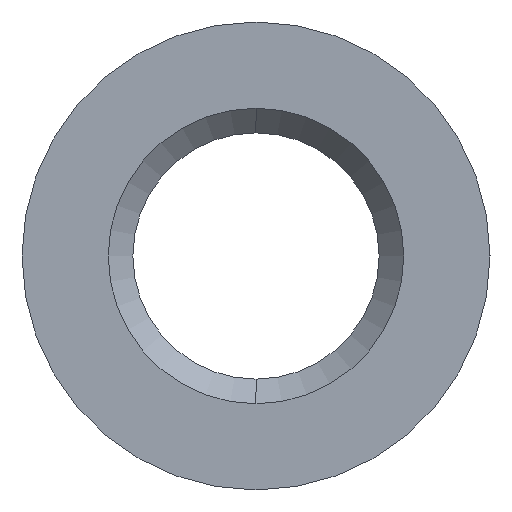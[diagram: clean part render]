
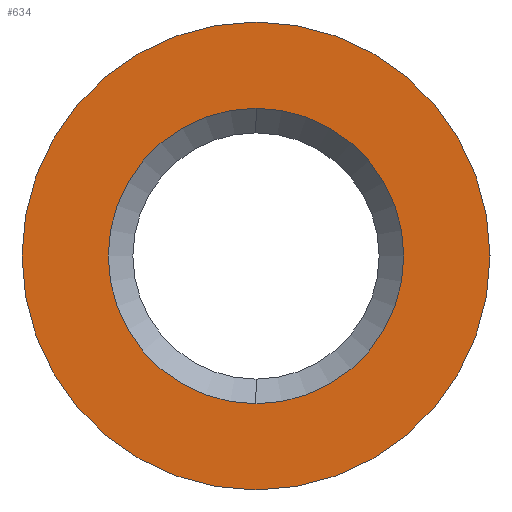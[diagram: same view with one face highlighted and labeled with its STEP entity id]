
A CAD part, left-side view. The second image highlights one B-rep face of the part: STEP entity #634.
In plain terms, the highlighted planar face has unit normal (-1, 0, 0).
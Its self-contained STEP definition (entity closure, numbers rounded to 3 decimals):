
#2 = CIRCLE ( 'NONE', #511, 3. ) ;
#4 = CARTESIAN_POINT ( 'NONE',  ( -14.05, 0., 0. ) ) ;
#9 = EDGE_CURVE ( 'NONE', #231, #628, #630, .T. ) ;
#11 = ORIENTED_EDGE ( 'NONE', *, *, #70, .F. ) ;
#36 = AXIS2_PLACEMENT_3D ( 'NONE', #239, #373, #720 ) ;
#50 = CARTESIAN_POINT ( 'NONE',  ( -14.05, 0., 3. ) ) ;
#61 = ORIENTED_EDGE ( 'NONE', *, *, #679, .F. ) ;
#70 = EDGE_CURVE ( 'NONE', #507, #492, #423, .T. ) ;
#114 = FACE_OUTER_BOUND ( 'NONE', #147, .T. ) ;
#143 = EDGE_LOOP ( 'NONE', ( #225, #293 ) ) ;
#147 = EDGE_LOOP ( 'NONE', ( #61, #11 ) ) ;
#172 = CARTESIAN_POINT ( 'NONE',  ( -14.05, 4.75, 0. ) ) ;
#180 = CARTESIAN_POINT ( 'NONE',  ( -14.05, 0., 0. ) ) ;
#225 = ORIENTED_EDGE ( 'NONE', *, *, #688, .T. ) ;
#231 = VERTEX_POINT ( 'NONE', #608 ) ;
#237 = AXIS2_PLACEMENT_3D ( 'NONE', #4, #713, #626 ) ;
#239 = CARTESIAN_POINT ( 'NONE',  ( -14.05, 0., 0. ) ) ;
#276 = CIRCLE ( 'NONE', #393, 4.75 ) ;
#293 = ORIENTED_EDGE ( 'NONE', *, *, #9, .T. ) ;
#350 = AXIS2_PLACEMENT_3D ( 'NONE', #172, #723, #672 ) ;
#373 = DIRECTION ( 'NONE',  ( 1., 0., 0. ) ) ;
#389 = DIRECTION ( 'NONE',  ( 0., 0., 1. ) ) ;
#393 = AXIS2_PLACEMENT_3D ( 'NONE', #516, #727, #510 ) ;
#423 = CIRCLE ( 'NONE', #36, 4.75 ) ;
#492 = VERTEX_POINT ( 'NONE', #850 ) ;
#507 = VERTEX_POINT ( 'NONE', #718 ) ;
#510 = DIRECTION ( 'NONE',  ( 0., 0., -1. ) ) ;
#511 = AXIS2_PLACEMENT_3D ( 'NONE', #180, #796, #389 ) ;
#516 = CARTESIAN_POINT ( 'NONE',  ( -14.05, 0., 0. ) ) ;
#608 = CARTESIAN_POINT ( 'NONE',  ( -14.05, 0., -3. ) ) ;
#626 = DIRECTION ( 'NONE',  ( 0., 0., 1. ) ) ;
#628 = VERTEX_POINT ( 'NONE', #50 ) ;
#630 = CIRCLE ( 'NONE', #237, 3. ) ;
#634 = ADVANCED_FACE ( 'NONE', ( #735, #114 ), #799, .T. ) ;
#672 = DIRECTION ( 'NONE',  ( 0., 0., 1. ) ) ;
#679 = EDGE_CURVE ( 'NONE', #492, #507, #276, .T. ) ;
#688 = EDGE_CURVE ( 'NONE', #628, #231, #2, .T. ) ;
#713 = DIRECTION ( 'NONE',  ( 1., 0., 0. ) ) ;
#718 = CARTESIAN_POINT ( 'NONE',  ( -14.05, 0., 4.75 ) ) ;
#720 = DIRECTION ( 'NONE',  ( 0., 0., -1. ) ) ;
#723 = DIRECTION ( 'NONE',  ( -1., 0., 0. ) ) ;
#727 = DIRECTION ( 'NONE',  ( 1., 0., 0. ) ) ;
#735 = FACE_BOUND ( 'NONE', #143, .T. ) ;
#796 = DIRECTION ( 'NONE',  ( 1., 0., 0. ) ) ;
#799 = PLANE ( 'NONE',  #350 ) ;
#850 = CARTESIAN_POINT ( 'NONE',  ( -14.05, 0., -4.75 ) ) ;
